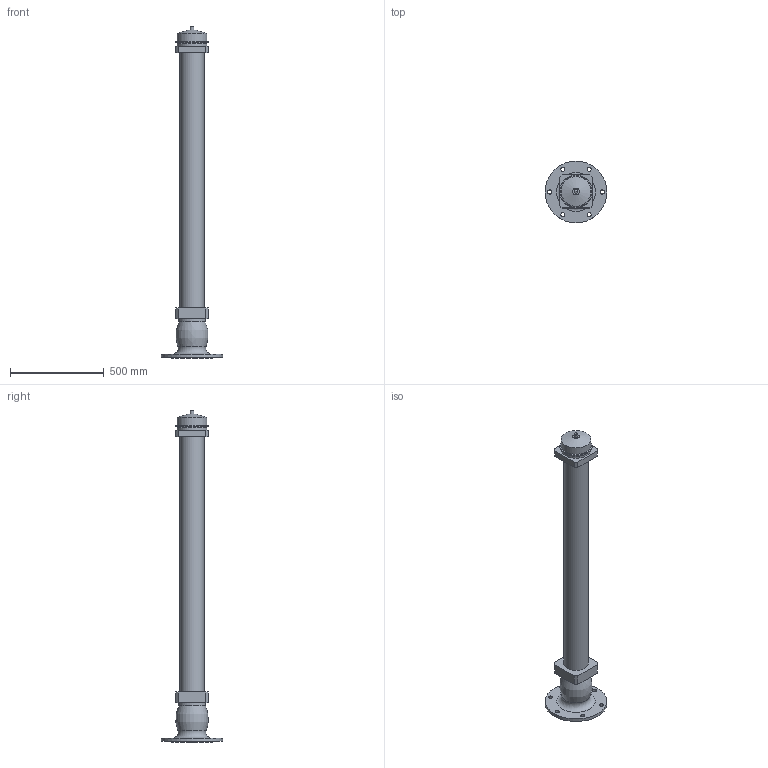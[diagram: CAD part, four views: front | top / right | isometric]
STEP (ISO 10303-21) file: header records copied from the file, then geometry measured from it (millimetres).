
FILE_DESCRIPTION(('STEP AP203'), '1');
FILE_NAME('Ãèäðàíò GPP 1750 ïîæàðíûé ïîäçåìíûé', '', ('UNSPECIFIED'), ('UNSPECIFIED'), 'ASCON STEP Converter 1.6', 'ASCON Math Kernel', '');
FILE_SCHEMA(('CONFIG_CONTROL_DESIGN'));
Length unit declared in the file: millimetre
Bounding box: 330 x 330 x 1772 mm (x, y, z)
Volume: 27541206.2 mm3; surface area: 1009531.5 mm2
Topology: 1 solids, 1 shells, 47 faces, 104 edges, 67 vertices
Faces by surface type: plane 26, cylinder 12, cone 7, torus 2
Full cylindrical faces by diameter (mm): 20 x1, 22 x6, 129 x1, 142 x1, 143 x1, 157.302 x1, 160 x1
Entity records: 1617 total; most frequent: DIRECTION 212, CARTESIAN_POINT 196, ORIENTED_EDGE 164, EDGE_LOOP 88, AXIS2_PLACEMENT_3D 82, EDGE_CURVE 82, VERTEX_POINT 66, COLOUR_RGB 48
